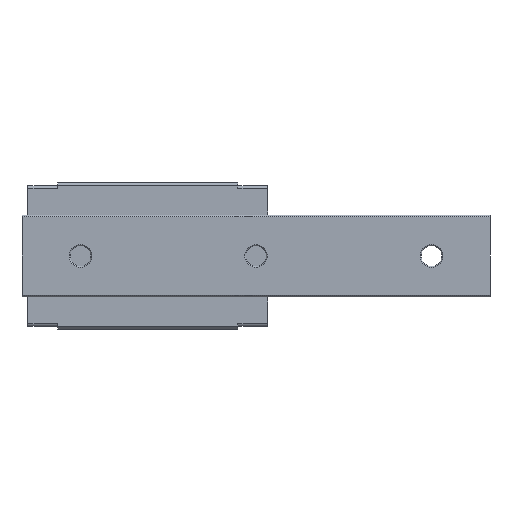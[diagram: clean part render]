
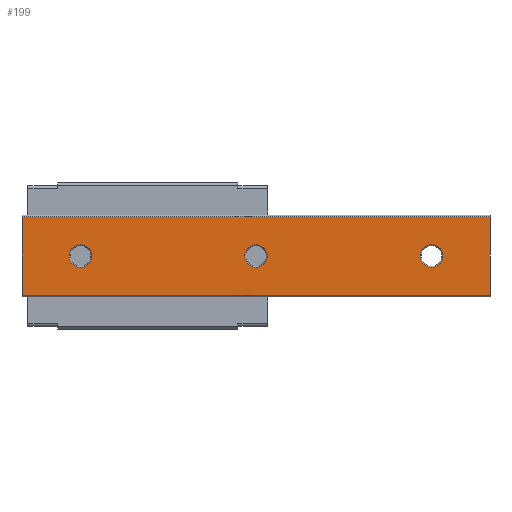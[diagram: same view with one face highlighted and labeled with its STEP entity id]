
A CAD part, front view. The second image highlights one B-rep face of the part: STEP entity #199.
In plain terms, the highlighted planar face has unit normal (0, -1, 0).
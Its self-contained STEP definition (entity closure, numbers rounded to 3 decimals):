
#199 = ADVANCED_FACE( '', ( #468, #469, #470, #471 ), #472, .F. );
#468 = FACE_BOUND( '', #834, .T. );
#469 = FACE_BOUND( '', #835, .T. );
#470 = FACE_BOUND( '', #836, .T. );
#471 = FACE_OUTER_BOUND( '', #837, .T. );
#472 = PLANE( '', #838 );
#834 = EDGE_LOOP( '', ( #1252 ) );
#835 = EDGE_LOOP( '', ( #1253 ) );
#836 = EDGE_LOOP( '', ( #1254 ) );
#837 = EDGE_LOOP( '', ( #1255, #1256, #1257, #1258 ) );
#838 = AXIS2_PLACEMENT_3D( '', #1259, #1260, #1261 );
#1252 = ORIENTED_EDGE( '', *, *, #2115, .F. );
#1253 = ORIENTED_EDGE( '', *, *, #2116, .F. );
#1254 = ORIENTED_EDGE( '', *, *, #2117, .F. );
#1255 = ORIENTED_EDGE( '', *, *, #2118, .T. );
#1256 = ORIENTED_EDGE( '', *, *, #2119, .F. );
#1257 = ORIENTED_EDGE( '', *, *, #2120, .F. );
#1258 = ORIENTED_EDGE( '', *, *, #2121, .T. );
#1259 = CARTESIAN_POINT( '', ( 80., 0., 6.7 ) );
#1260 = DIRECTION( '', ( 0., 1., 0. ) );
#1261 = DIRECTION( '', ( 0., 0., 1. ) );
#2115 = EDGE_CURVE( '', #2516, #2516, #2517, .T. );
#2116 = EDGE_CURVE( '', #2518, #2518, #2519, .T. );
#2117 = EDGE_CURVE( '', #2520, #2520, #2521, .T. );
#2118 = EDGE_CURVE( '', #2522, #2523, #2524, .T. );
#2119 = EDGE_CURVE( '', #2525, #2523, #2526, .T. );
#2120 = EDGE_CURVE( '', #2527, #2525, #2528, .T. );
#2121 = EDGE_CURVE( '', #2527, #2522, #2529, .T. );
#2516 = VERTEX_POINT( '', #3076 );
#2517 = CIRCLE( '', #3077, 1.955 );
#2518 = VERTEX_POINT( '', #3078 );
#2519 = CIRCLE( '', #3079, 1.955 );
#2520 = VERTEX_POINT( '', #3080 );
#2521 = CIRCLE( '', #3081, 1.955 );
#2522 = VERTEX_POINT( '', #3082 );
#2523 = VERTEX_POINT( '', #3083 );
#2524 = LINE( '', #3084, #3085 );
#2525 = VERTEX_POINT( '', #3086 );
#2526 = LINE( '', #3087, #3088 );
#2527 = VERTEX_POINT( '', #3089 );
#2528 = LINE( '', #3090, #3091 );
#2529 = LINE( '', #3092, #3093 );
#3076 = CARTESIAN_POINT( '', ( 10., 0., -1.955 ) );
#3077 = AXIS2_PLACEMENT_3D( '', #3701, #3702, #3703 );
#3078 = CARTESIAN_POINT( '', ( 70., 0., -1.955 ) );
#3079 = AXIS2_PLACEMENT_3D( '', #3704, #3705, #3706 );
#3080 = CARTESIAN_POINT( '', ( 40., 0., -1.955 ) );
#3081 = AXIS2_PLACEMENT_3D( '', #3707, #3708, #3709 );
#3082 = CARTESIAN_POINT( '', ( 0., 0., 6.7 ) );
#3083 = CARTESIAN_POINT( '', ( 0., 0., -6.7 ) );
#3084 = CARTESIAN_POINT( '', ( 0., 0., 6.7 ) );
#3085 = VECTOR( '', #3710, 1000. );
#3086 = CARTESIAN_POINT( '', ( 80., 0., -6.7 ) );
#3087 = CARTESIAN_POINT( '', ( 80., 0., -6.7 ) );
#3088 = VECTOR( '', #3711, 1000. );
#3089 = CARTESIAN_POINT( '', ( 80., 0., 6.7 ) );
#3090 = CARTESIAN_POINT( '', ( 80., 0., 6.7 ) );
#3091 = VECTOR( '', #3712, 1000. );
#3092 = CARTESIAN_POINT( '', ( 80., 0., 6.7 ) );
#3093 = VECTOR( '', #3713, 1000. );
#3701 = CARTESIAN_POINT( '', ( 10., 0., 0. ) );
#3702 = DIRECTION( '', ( 0., -1., 0. ) );
#3703 = DIRECTION( '', ( 0., 0., -1. ) );
#3704 = CARTESIAN_POINT( '', ( 70., 0., 0. ) );
#3705 = DIRECTION( '', ( 0., -1., 0. ) );
#3706 = DIRECTION( '', ( 0., 0., -1. ) );
#3707 = CARTESIAN_POINT( '', ( 40., 0., 0. ) );
#3708 = DIRECTION( '', ( 0., -1., 0. ) );
#3709 = DIRECTION( '', ( 0., 0., -1. ) );
#3710 = DIRECTION( '', ( 0., 0., -1. ) );
#3711 = DIRECTION( '', ( -1., 0., 0. ) );
#3712 = DIRECTION( '', ( 0., 0., -1. ) );
#3713 = DIRECTION( '', ( -1., 0., 0. ) );
